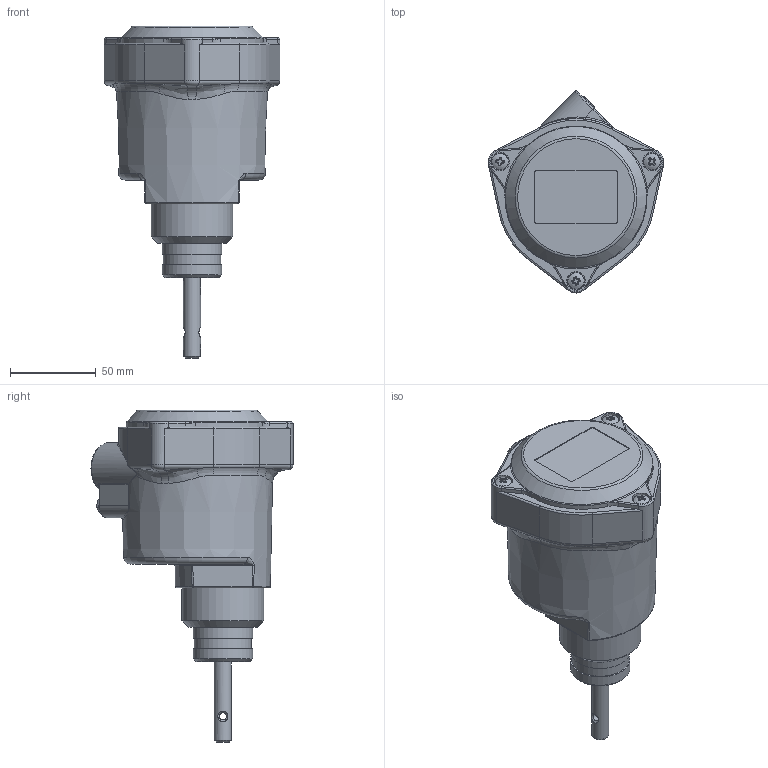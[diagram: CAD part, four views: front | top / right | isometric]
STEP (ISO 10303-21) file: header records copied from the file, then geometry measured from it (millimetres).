
FILE_DESCRIPTION(/* description */ (''),/* implementation_level */ '2;1');
FILE_NAME(/* name */ '\\SRVGEST\camlogic\TEMP\Kulwant S\2_STEP\2_STEP\PFG57\PFG-57.stp',/* time_stamp */ '2021-06-11T09:36:20+02:00',/* author */ ('kulwant.singh'),/* organization */ (''),/* preprocessor_version */ 'ST-DEVELOPER v18.1',/* originating_system */ 'Autodesk Inventor 2022',/* authorisation */ '');
FILE_SCHEMA (('AUTOMOTIVE_DESIGN { 1 0 10303 214 3 1 1 }'));
Length unit declared in the file: millimetre
Products named in the file (1): PFG-57
Bounding box: 102.8 x 118.07 x 194 mm (x, y, z)
Volume: 662755 mm3; surface area: 53135.8 mm2
Topology: 1 solids, 1 shells, 478 faces, 1216 edges, 757 vertices
Faces by surface type: plane 164, cylinder 150, cone 57, bspline 53, torus 47, sphere 7
Full cylindrical faces by diameter (mm): 4.134 x1, 6.88 x1, 7.333 x1, 8 x1, 9.4 x1, 10 x2, 10.8 x3, 14.2 x1, 18.631 x1, 23.5 x1, 25 x1, 26 x2, 33.5 x1, 34.8 x2, 47.803 x1
Entity records: 16620 total; most frequent: CARTESIAN_POINT 4712, ORIENTED_EDGE 2412, DIRECTION 2396, EDGE_CURVE 1206, AXIS2_PLACEMENT_3D 962, VERTEX_POINT 757, EDGE_LOOP 509, CIRCLE 481
